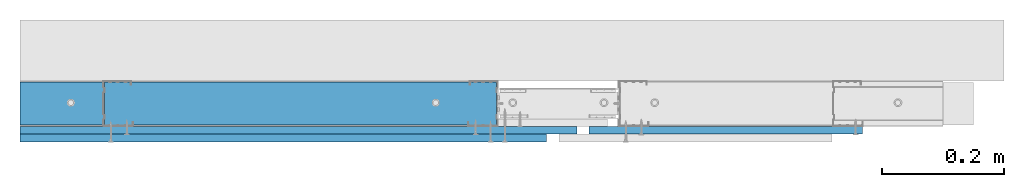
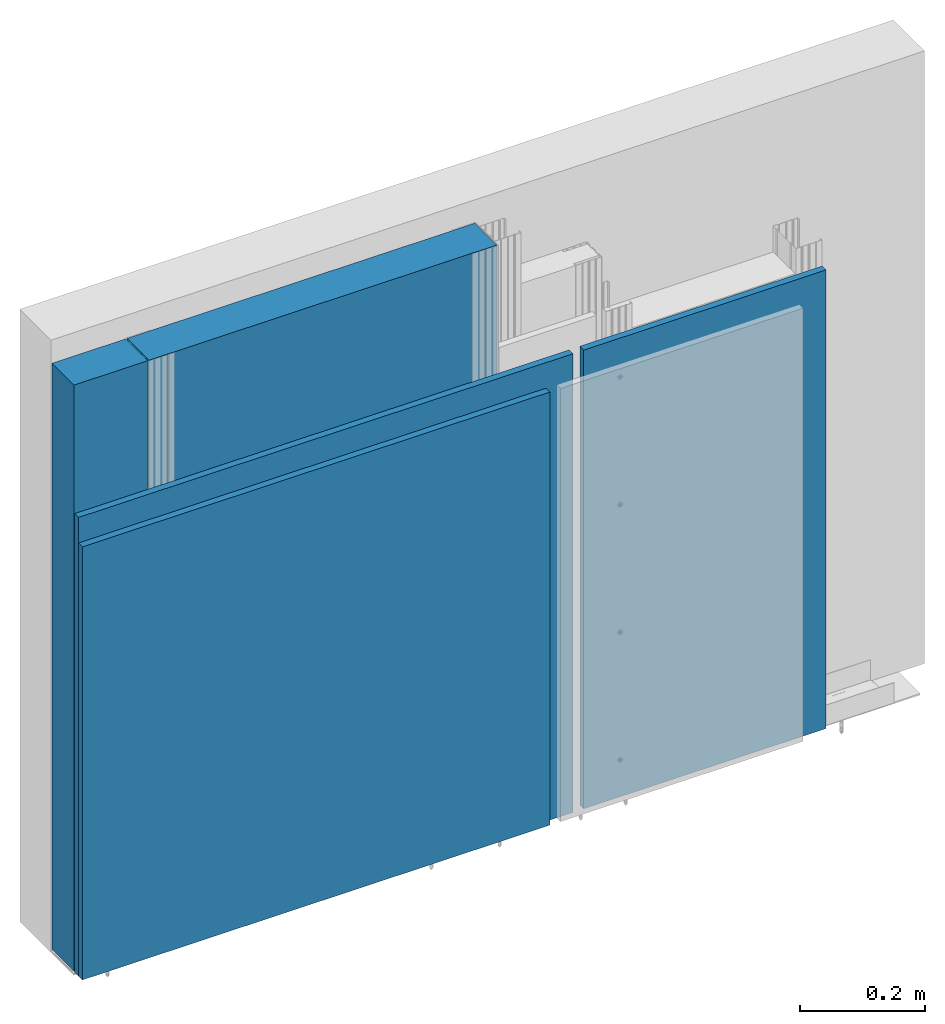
# One storey, part 2 of 39: 5 walls.
"""IFC2X3 building model written with IfcOpenShell, lengths in millimetres."""

from ifc_helpers import new_model, entity, si_unit, converted_unit, direction, frame, origin, origin_with_axes, place, context, project, spatial, faceted_brep, element, save


model = new_model("IFC2X3")

# Units and contexts
model_context = context("Model", 3, precision=1e-05, world=origin(), true_north=direction((0.0, 1.0, 0.0)))
ifc_project = project(units=[si_unit("LENGTHUNIT", "METRE", prefix="MILLI"), si_unit("AREAUNIT", "SQUARE_METRE"), si_unit("VOLUMEUNIT", "CUBIC_METRE"), converted_unit("PLANEANGLEUNIT", "DEGREE", entity("IfcPlaneAngleMeasure", 0.01745), si_unit("PLANEANGLEUNIT", "RADIAN"), dimensions=[0, 0, 0, 0, 0, 0, 0]), si_unit("SOLIDANGLEUNIT", "STERADIAN"), si_unit("MASSUNIT", "GRAM"), si_unit("TIMEUNIT", "SECOND"), si_unit("THERMODYNAMICTEMPERATUREUNIT", "DEGREE_CELSIUS"), si_unit("LUMINOUSINTENSITYUNIT", "LUMEN")], contexts=[model_context])

# Site, building, storey
site_placement = place(None, origin_with_axes())
site = spatial("IfcSite", under=ifc_project, at=site_placement, Name="Default Site", CompositionType="ELEMENT")
building_placement = place(site_placement, origin_with_axes())
building = spatial("IfcBuilding", under=site, at=building_placement, Name="Default Building", CompositionType="ELEMENT")
storey_placement = place(building_placement, origin_with_axes())
storey = spatial("IfcBuildingStorey", under=building, at=storey_placement, Name="Default Building Storey", CompositionType="ELEMENT", Elevation=0.0)

# Walls
wall_1_placement = place(storey_placement, frame((2150.202807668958, 5349.32136006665, 8.382447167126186), z_axis=(0.0, 0.0, 1.0), x_axis=(-1.0, 4.718447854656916e-16, 0.0)))
element("IfcWall", 1, at=wall_1_placement, inside=storey, Name="Wełna mineralna szklana lub skalna ISOVER", context=model_context, shape_type="Brep", body=[
    faceted_brep([(-758.3712262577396, 3399.989379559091, 1150.007948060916), (-114.0712262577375, 3399.989379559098, 1150.007948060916), (-114.0712262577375, 3399.989379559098, 2.350000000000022), (-758.3712262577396, 3399.989379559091, 2.350000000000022), (-758.3712262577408, 3329.283223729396, 1150.007948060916), (-758.3712262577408, 3329.283223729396, 2.350000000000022), (-114.0712262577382, 3329.283223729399, 2.350000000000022), (-114.0712262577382, 3329.283223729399, 1150.007948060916)], [[[0, 1, 2, 3]], [[4, 0, 3, 5]], [[2, 6, 5, 3]], [[4, 7, 1, 0]], [[5, 6, 7, 4]], [[1, 7, 6, 2]]]),
])
wall_2_placement = place(storey_placement, frame((3838.221819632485, 1946.791292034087, 1059.999999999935), z_axis=(0.0, 0.0, 1.0), x_axis=(-1.0, 6.389333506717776e-13, 0.0)))
element("IfcWall", 2, at=wall_2_placement, inside=storey, Name="Płyta gipsowo-kartonowa RIGIPS PRO (4PRO™)", context=model_context, shape_type="Brep", body=[
    faceted_brep([(328.097785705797, -4.067970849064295e-10, -151.6096039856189), (328.0977857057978, 12.49999999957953, -151.6096039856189), (328.0977857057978, 12.49999999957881, -1050.001581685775), (328.097785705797, -4.075189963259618e-10, -1050.001581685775), (777.2895112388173, 12.49999999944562, -151.6096039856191), (777.2895112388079, -5.26634380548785e-10, -151.6096039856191), (777.289511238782, -5.24107690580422e-10, -1050.001581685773), (777.2895112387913, 12.49999999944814, -1050.001581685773)], [[[0, 1, 2, 3]], [[4, 5, 6, 7]], [[4, 1, 0, 5]], [[7, 2, 1, 4]], [[0, 3, 6, 5]], [[6, 3, 2, 7]]]),
])
wall_3_placement = place(storey_placement, frame((3638.213545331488, 1946.791292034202, 1059.999999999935), z_axis=(0.0, 0.0, 1.0), x_axis=(-1.0, 6.389333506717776e-13, 0.0)))
element("IfcWall", 3, at=wall_3_placement, inside=storey, Name="Płyta gipsowo-kartonowa RIGIPS PRO (4PRO™)", context=model_context, shape_type="Brep", body=[
    faceted_brep([(597.2812369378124, -4.075189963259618e-10, -151.6096039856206), (597.2812369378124, 12.49999999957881, -151.6096039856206), (597.2812369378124, 12.49999999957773, -1050.001581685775), (597.2812369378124, -4.086018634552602e-10, -1050.001581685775), (1513.188411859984, 12.49999999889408, -151.6096039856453), (1513.188411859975, -1.078174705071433e-09, -151.6096039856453), (1513.188411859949, -1.076008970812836e-09, -1050.001581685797), (1513.188411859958, 12.49999999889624, -1050.001581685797)], [[[0, 1, 2, 3]], [[4, 5, 6, 7]], [[4, 1, 0, 5]], [[7, 2, 1, 4]], [[0, 3, 6, 5]], [[6, 3, 2, 7]]]),
])
wall_4_placement = place(storey_placement, frame((3588.213545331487, 1934.291292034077, 1059.999999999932), z_axis=(0.0, 0.0, 1.0), x_axis=(-1.0, 6.389333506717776e-13, 0.0)))
element("IfcWall", 4, at=wall_4_placement, inside=storey, Name="Płyta gipsowo-kartonowa RIGIPS PRO (4PRO™)", context=model_context, shape_type="Brep", body=[
    faceted_brep([(597.2812369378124, -4.064361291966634e-10, -201.6096039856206), (597.2812369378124, 12.49999999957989, -201.6096039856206), (597.2812369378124, 12.49999999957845, -1050.001581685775), (597.2812369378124, -4.078799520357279e-10, -1050.001581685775), (1463.188411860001, 12.49999999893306, -201.6096039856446), (1463.188411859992, -1.039191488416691e-09, -201.6096039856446), (1463.188411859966, -1.03738670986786e-09, -1050.001581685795), (1463.188411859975, 12.49999999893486, -1050.001581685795)], [[[0, 1, 2, 3]], [[4, 5, 6, 7]], [[4, 1, 0, 5]], [[7, 2, 1, 4]], [[0, 3, 6, 5]], [[6, 3, 2, 7]]]),
])
wall_5_placement = place(storey_placement, frame((1574.102807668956, 5349.321360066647, 8.382447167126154), z_axis=(0.0, 0.0, 1.0), x_axis=(-1.0, 4.718447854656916e-16, 0.0)))
element("IfcWall", 5, at=wall_5_placement, inside=storey, Name="Wełna mineralna szklana lub skalna ISOVER", context=model_context, shape_type="Brep", body=[
    faceted_brep([(-687.8212262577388, 3329.283223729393, 1150.007948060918), (-687.821226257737, 3399.989379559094, 1150.007948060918), (-687.821226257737, 3399.989379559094, 2.350000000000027), (-687.8212262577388, 3329.283223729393, 2.350000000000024), (-550.92232580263, 3399.989379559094, 2.350000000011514), (-550.9223258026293, 3329.283223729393, 2.350000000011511), (-550.9223258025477, 3329.283223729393, 1150.007948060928), (-550.9223258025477, 3399.989379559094, 1150.007948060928)], [[[0, 1, 2, 3]], [[2, 4, 5, 3]], [[0, 6, 7, 1]], [[1, 7, 4, 2]], [[3, 5, 6, 0]], [[7, 6, 5, 4]]]),
])

save(model, "model.ifc")
